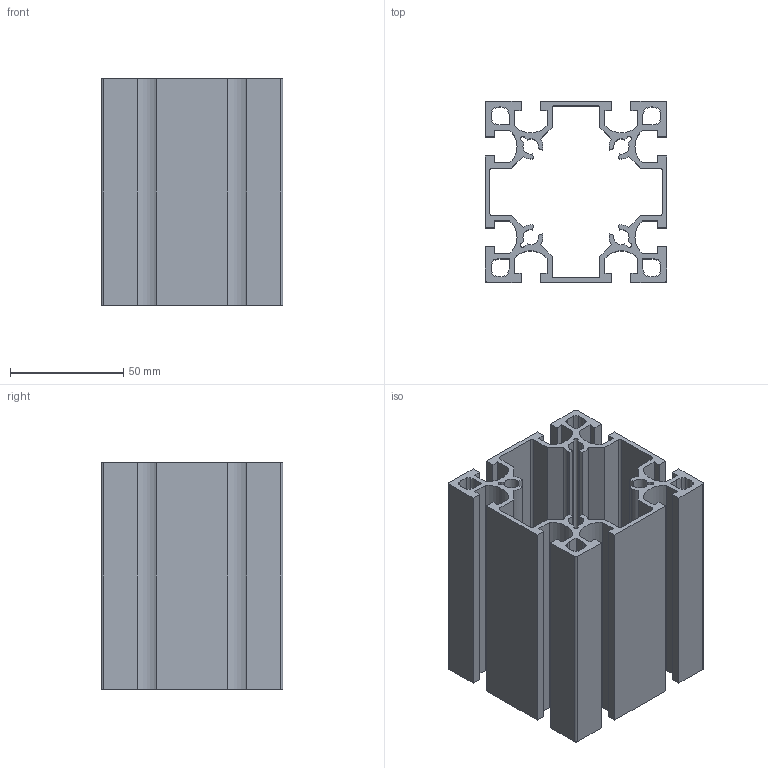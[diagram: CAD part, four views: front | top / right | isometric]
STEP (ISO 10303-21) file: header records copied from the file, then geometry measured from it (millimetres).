
FILE_DESCRIPTION (( 'STEP AP203' ), '1' );
FILE_NAME ('WS8080A-8.STEP', '2024-02-19T05:21:34', ( '' ), ( '' ), 'SwSTEP 2.0', 'SolidWorks 2022', '' );
FILE_SCHEMA (( 'CONFIG_CONTROL_DESIGN' ));
Length unit declared in the file: millimetre
Products named in the file (1): WS8080A-8
Bounding box: 80 x 80 x 100 mm (x, y, z)
Volume: 141942.1 mm3; surface area: 111068.1 mm2
Topology: 1 solids, 1 shells, 210 faces, 624 edges, 416 vertices
Faces by surface type: plane 130, cylinder 80
Entity records: 7145 total; most frequent: CARTESIAN_POINT 1251, ORIENTED_EDGE 1248, DIRECTION 1206, EDGE_CURVE 624, LINE 464, VECTOR 464, VERTEX_POINT 416, AXIS2_PLACEMENT_3D 371
